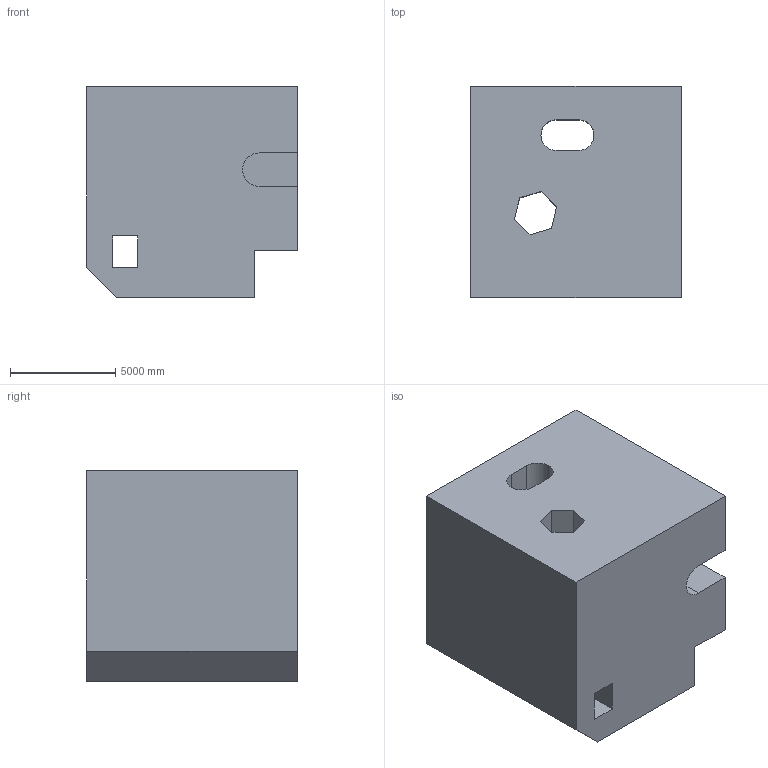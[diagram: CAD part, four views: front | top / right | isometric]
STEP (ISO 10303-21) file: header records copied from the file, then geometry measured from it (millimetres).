
FILE_DESCRIPTION (( 'STEP AP203' ), '1' );
FILE_NAME ('157.STEP', '2022-08-31T12:00:28', ( 'user' ), ( '' ), 'SwSTEP 2.0', 'SolidWorks 2021', '' );
FILE_SCHEMA (( 'CONFIG_CONTROL_DESIGN' ));
Length unit declared in the file: centimetre
Products named in the file (1): 157
Bounding box: 10000 x 10000 x 10000 mm (x, y, z)
Volume: 843364836094.3 mm3; surface area: 763077129.6 mm2
Topology: 1 solids, 1 shells, 37 faces, 111 edges, 74 vertices
Faces by surface type: plane 32, cylinder 5
Entity records: 1328 total; most frequent: CARTESIAN_POINT 229, ORIENTED_EDGE 222, DIRECTION 195, EDGE_CURVE 111, VECTOR 99, LINE 99, VERTEX_POINT 74, AXIS2_PLACEMENT_3D 48
